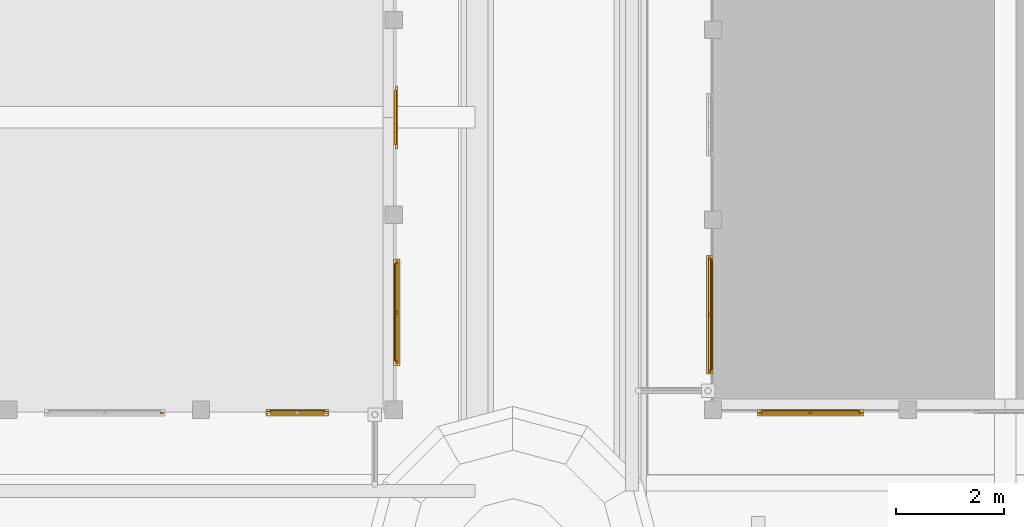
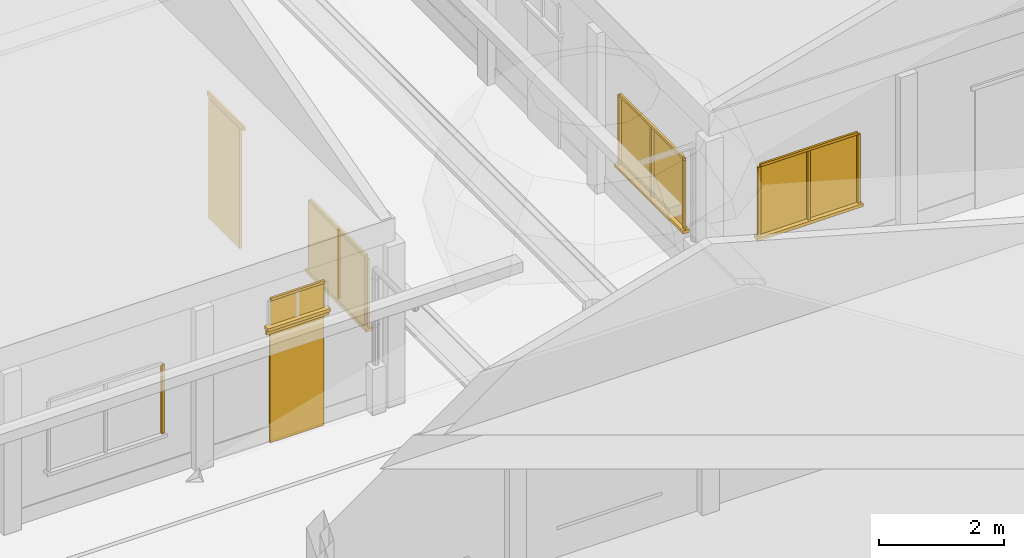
# One storey, part 64 of 177: 22 windows, 4 doors.
"""IFC4 building model written with IfcOpenShell, lengths in metres."""

import ifcopenshell
import ifcopenshell.guid

model = None  # the IFC model being written
_history = None  # IfcOwnerHistory: only IFC2X3 demands one
_inside = {}  # id of a spatial element -> (the spatial element, [elements in it])
_under = {}  # id of a project, library or spatial element -> (it, [spatial elements below it])
_declared = {}  # id of a project -> (the project, [libraries it declares])
_typed = {}  # id of a type object -> (the type object, [elements of that type])
_made_of = {}  # id of a material, layer set ... -> (it, [elements and type objects made of it])


def new_model(schema):
    """Start an empty IFC model of exactly this schema.

    Asked for "IFC4X3", IfcOpenShell would pick the latest addendum, in which some entities
    have other attributes; the version numbers below select the first issue.
    IFC2X3 requires an IfcOwnerHistory on every rooted entity: one is made here for all.
    """
    global model, _history
    if schema == "IFC4X3":
        model = ifcopenshell.file(schema_version=(4, 3, 0, 0))
    else:
        model = ifcopenshell.file(schema=schema)
    _inside.clear()
    _under.clear()
    _declared.clear()
    _typed.clear()
    _made_of.clear()
    _history = None
    if model.schema == "IFC2X3":
        org = make("IfcOrganization", Name="unknown")
        user = make(
            "IfcPersonAndOrganization",
            ThePerson=make("IfcPerson", FamilyName="unknown"),
            TheOrganization=org,
        )
        app = make(
            "IfcApplication",
            ApplicationDeveloper=org,
            Version="unknown",
            ApplicationFullName="unknown",
            ApplicationIdentifier="unknown",
        )
        _history = make(
            "IfcOwnerHistory",
            OwningUser=user,
            OwningApplication=app,
            ChangeAction="ADDED",
            CreationDate=0,
        )
    return model


def make(cls, **values):
    """One entity of the class cls with the attributes given. An attribute that is None is left unset."""
    return model.create_entity(
        cls, **{name: value for name, value in values.items() if value is not None}
    )


def rooted(cls, **values):
    """An entity with a GlobalId (a new one), such as an element, a storey or a relation."""
    return make(cls, GlobalId=ifcopenshell.guid.new(), OwnerHistory=_history, **values)


def si_unit(unit_type, name, prefix=None):
    """IfcSIUnit, for example si_unit("LENGTHUNIT", "METRE", prefix="MILLI")."""
    return make("IfcSIUnit", UnitType=unit_type, Prefix=prefix, Name=name)


def assignment(units):
    """IfcUnitAssignment: the units of a project."""
    return None if units is None else make("IfcUnitAssignment", Units=units)


def point(xyz):
    """IfcCartesianPoint."""
    return None if xyz is None else make("IfcCartesianPoint", Coordinates=xyz)


def direction(xyz):
    """IfcDirection."""
    return None if xyz is None else make("IfcDirection", DirectionRatios=xyz)


def frame(location, z_axis=None, x_axis=None):
    """IfcAxis2Placement3D, a coordinate frame: its origin and axes. An axis left out is left unset."""
    return make(
        "IfcAxis2Placement3D",
        Location=point(location),
        Axis=direction(z_axis),
        RefDirection=direction(x_axis),
    )


def origin():
    """The frame at (0, 0, 0) with its axes left unset."""
    return frame((0.0, 0.0, 0.0))


def origin_with_axes():
    """The frame at (0, 0, 0) with the z axis (0, 0, 1) and the x axis (1, 0, 0) written out."""
    return frame((0.0, 0.0, 0.0), z_axis=(0.0, 0.0, 1.0), x_axis=(1.0, 0.0, 0.0))


def place(relative_to, where):
    """IfcLocalPlacement: puts the frame where relative to a parent placement (None: the world)."""
    return make(
        "IfcLocalPlacement", PlacementRelTo=relative_to, RelativePlacement=where
    )


def context(
    kind, dimensions, precision=None, world=None, true_north=None, identifier=None
):
    """IfcGeometricRepresentationContext, for example the 3D "Model" context."""
    return make(
        "IfcGeometricRepresentationContext",
        ContextIdentifier=identifier,
        ContextType=kind,
        CoordinateSpaceDimension=dimensions,
        Precision=precision,
        WorldCoordinateSystem=world,
        TrueNorth=true_north,
    )


def subcontext(parent, identifier, kind, view, scale=None):
    """IfcGeometricRepresentationSubContext, for example "Body" below "Model"."""
    return make(
        "IfcGeometricRepresentationSubContext",
        ContextIdentifier=identifier,
        ContextType=kind,
        ParentContext=parent,
        TargetScale=scale,
        TargetView=view,
    )


def project(units=None, contexts=None):
    """IfcProject with its units and contexts."""
    return rooted(
        "IfcProject",
        Name="project",
        RepresentationContexts=contexts,
        UnitsInContext=assignment(units),
    )


def spatial(cls, under=None, at=None, **own):
    """A site, building, storey or space (cls), placed at a placement, below another one or the project."""
    s = rooted(cls, ObjectPlacement=at, **own)
    if under is not None:
        _under.setdefault(under.id(), (under, []))[1].append(s)
    return s


def point_list(points):
    """IfcCartesianPointList2D or 3D."""
    cls = (
        "IfcCartesianPointList2D" if len(points[0]) == 2 else "IfcCartesianPointList3D"
    )
    return make(cls, CoordList=points)


def triangles(points, corners, closed=None, point_numbers=None):
    """IfcTriangulatedFaceSet: each triangle names its three corners, points numbered from 1."""
    return make(
        "IfcTriangulatedFaceSet",
        Coordinates=point_list(points),
        Closed=closed,
        CoordIndex=corners,
        PnIndex=point_numbers,
    )


def shape(context_of_items, identifier, shape_type, items):
    """IfcShapeRepresentation: the items that make up one representation, for example the "Body"."""
    return make(
        "IfcShapeRepresentation",
        ContextOfItems=context_of_items,
        RepresentationIdentifier=identifier,
        RepresentationType=shape_type,
        Items=items,
    )


def made_of(thing, what):
    """Note that an element or type object is made of a material, layer set ...; save() writes the relation."""
    if what is not None:
        _made_of.setdefault(what.id(), (what, []))[1].append(thing)
    return thing


def element(
    cls,
    number,
    at=None,
    inside=None,
    cuts=None,
    type_object=None,
    material=None,
    context=None,
    identifier="Body",
    shape_type=None,
    held_by="IfcProductDefinitionShape",
    body=None,
    shapes=None,
    **own,
):
    """One element of the class cls, such as IfcWall. Its Tag is "e" and its number.

    at: its placement. inside: the storey or other place that contains it. cuts: it is an
    opening in that element (IfcRelVoidsElement). A single representation is given by context,
    identifier, shape_type and body (its items); several are given by shapes. held_by: the class
    of the entity that holds the representations. save() writes the other relations.
    """
    e = rooted(cls, Tag="e%d" % number, ObjectPlacement=at, **own)
    if body is not None:
        shapes = [shape(context, identifier, shape_type, body)]
    if shapes is not None:
        e.Representation = make(held_by, Representations=shapes)
    if inside is not None:
        _inside.setdefault(inside.id(), (inside, []))[1].append(e)
    if cuts is not None:
        rooted(
            "IfcRelVoidsElement", RelatingBuildingElement=cuts, RelatedOpeningElement=e
        )
    if type_object is not None:
        _typed.setdefault(type_object.id(), (type_object, []))[1].append(e)
    return made_of(e, material)


def aggregate(whole, parts):
    """IfcRelAggregates: a whole, such as a stair, and the parts it consists of."""
    return rooted("IfcRelAggregates", RelatingObject=whole, RelatedObjects=parts)


def save(model, path):
    """Write the relations noted so far, then the file.

    IfcRelAggregates (storeys below a building ...), IfcRelContainedInSpatialStructure (elements
    in a storey), IfcRelDefinesByType, IfcRelAssociatesMaterial and IfcRelDeclares: one each for
    every whole, place, type object, material and project.
    """
    for whole, parts in _under.values():
        aggregate(whole, parts)
    for where, things in _inside.values():
        rooted(
            "IfcRelContainedInSpatialStructure",
            RelatedElements=things,
            RelatingStructure=where,
        )
    for kind, things in _typed.values():
        rooted("IfcRelDefinesByType", RelatedObjects=things, RelatingType=kind)
    for what, things in _made_of.values():
        rooted("IfcRelAssociatesMaterial", RelatedObjects=things, RelatingMaterial=what)
    for by, libraries in _declared.values():
        rooted("IfcRelDeclares", RelatingContext=by, RelatedDefinitions=libraries)
    model.write(path)


model = new_model("IFC4")

# Units and contexts
model_context = context("Model", 3, precision=1e-05, world=origin_with_axes())
body_context = subcontext(model_context, "Body", "Model", "MODEL_VIEW")
ifc_project = project(units=[si_unit("LENGTHUNIT", "METRE"), si_unit("AREAUNIT", "SQUARE_METRE"), si_unit("VOLUMEUNIT", "CUBIC_METRE"), si_unit("PLANEANGLEUNIT", "RADIAN")], contexts=[model_context])

# Site, building, storey
site_placement = place(None, origin_with_axes())
site = spatial("IfcSite", under=ifc_project, at=site_placement, Name="Predio Los Mangos - Morales, San Martín", CompositionType="ELEMENT")
building_placement = place(site_placement, origin())
building = spatial("IfcBuilding", under=site, at=building_placement, Name="Hogar de Refugio Temporal", CompositionType="ELEMENT")
storey_placement = place(building_placement, origin())
storey = spatial("IfcBuildingStorey", under=building, at=storey_placement, Name="NIVEL 1 (NPT +0.00)", CompositionType="ELEMENT", Elevation=0.0)

# Window
window_1_placement = place(storey_placement, origin())
element("IfcWindow", 1, at=window_1_placement, inside=storey, Name="E-06_v3_m", ObjectType="Ventana", PredefinedType="WINDOW", context=body_context, shape_type="Tessellation", body=[
    triangles([(45.4924, 92.62, 1.05), (45.5424, 92.62, 1.05), (45.5424, 92.66, 1.05), (45.4924, 92.66, 1.05), (45.4924, 92.62, 2.4), (45.5424, 92.62, 2.4), (45.5424, 92.66, 2.4), (45.4924, 92.66, 2.4)], [[1, 4, 3], [1, 3, 2], [5, 6, 7], [5, 7, 8], [1, 2, 6], [1, 6, 5], [2, 3, 7], [2, 7, 6], [3, 4, 8], [3, 8, 7], [4, 1, 5], [4, 5, 8]]),
])

# Doors
door_1_placement = place(storey_placement, origin())
element("IfcDoor", 2, at=door_1_placement, inside=storey, Name="E-06_p4", ObjectType="Puerta", PredefinedType="DOOR", context=body_context, shape_type="Tessellation", body=[
    triangles([(47.52, 92.65, 0.15), (48.52, 92.65, 0.15), (48.52, 92.69, 0.15), (47.52, 92.69, 0.15), (47.52, 92.65, 2.3), (48.52, 92.65, 2.3), (48.52, 92.69, 2.3), (47.52, 92.69, 2.3)], [[1, 4, 3], [1, 3, 2], [5, 6, 7], [5, 7, 8], [1, 2, 6], [1, 6, 5], [2, 3, 7], [2, 7, 6], [3, 4, 8], [3, 8, 7], [4, 1, 5], [4, 5, 8]]),
])
door_2_placement = place(storey_placement, origin())
element("IfcDoor", 3, at=door_2_placement, inside=storey, Name="E-06_p4_marco", ObjectType="Puerta", PredefinedType="DOOR", context=body_context, shape_type="Tessellation", body=[
    triangles([(47.44, 92.63, 2.3), (48.6, 92.63, 2.3), (48.6, 92.67, 2.3), (47.44, 92.67, 2.3), (47.44, 92.63, 2.38), (48.6, 92.63, 2.38), (48.6, 92.67, 2.38), (47.44, 92.67, 2.38)], [[1, 4, 3], [1, 3, 2], [5, 6, 7], [5, 7, 8], [1, 2, 6], [1, 6, 5], [2, 3, 7], [2, 7, 6], [3, 4, 8], [3, 8, 7], [4, 1, 5], [4, 5, 8]]),
])

# Windows
window_2_placement = place(storey_placement, origin())
element("IfcWindow", 4, at=window_2_placement, inside=storey, Name="E-06_vt4_vid", ObjectType="Ventana", PredefinedType="WINDOW", context=body_context, shape_type="Tessellation", body=[
    triangles([(47.52, 92.66, 2.45), (48.52, 92.66, 2.45), (48.52, 92.68, 2.45), (47.52, 92.68, 2.45), (47.52, 92.66, 2.95), (48.52, 92.66, 2.95), (48.52, 92.68, 2.95), (47.52, 92.68, 2.95)], [[1, 4, 3], [1, 3, 2], [5, 6, 7], [5, 7, 8], [1, 2, 6], [1, 6, 5], [2, 3, 7], [2, 7, 6], [3, 4, 8], [3, 8, 7], [4, 1, 5], [4, 5, 8]]),
])
window_3_placement = place(storey_placement, origin())
element("IfcWindow", 5, at=window_3_placement, inside=storey, Name="E-06_vt4_m", ObjectType="Ventana", PredefinedType="WINDOW", context=body_context, shape_type="Tessellation", body=[
    triangles([(47.52, 92.62, 2.95), (48.52, 92.62, 2.95), (48.52, 92.66, 2.95), (47.52, 92.66, 2.95), (47.52, 92.62, 3.0), (48.52, 92.62, 3.0), (48.52, 92.66, 3.0), (47.52, 92.66, 3.0)], [[1, 4, 3], [1, 3, 2], [5, 6, 7], [5, 7, 8], [1, 2, 6], [1, 6, 5], [2, 3, 7], [2, 7, 6], [3, 4, 8], [3, 8, 7], [4, 1, 5], [4, 5, 8]]),
])
window_4_placement = place(storey_placement, origin())
element("IfcWindow", 6, at=window_4_placement, inside=storey, Name="E-06_vt4_alf", ObjectType="Ventana", PredefinedType="WINDOW", context=body_context, shape_type="Tessellation", body=[
    triangles([(47.44, 92.7, 2.39), (48.6, 92.7, 2.39), (48.6, 92.58, 2.39), (47.44, 92.58, 2.39), (47.44, 92.7, 2.45), (48.6, 92.7, 2.45), (48.6, 92.58, 2.45), (47.44, 92.58, 2.45)], [[1, 4, 3], [1, 3, 2], [5, 6, 7], [5, 7, 8], [1, 2, 6], [1, 6, 5], [2, 3, 7], [2, 7, 6], [3, 4, 8], [3, 8, 7], [4, 1, 5], [4, 5, 8]]),
])
window_5_placement = place(storey_placement, origin())
element("IfcWindow", 7, at=window_5_placement, inside=storey, Name="E-06_vg0_vid", ObjectType="Ventana", PredefinedType="WINDOW", context=body_context, shape_type="Tessellation", body=[
    triangles([(49.82, 93.6, 1.05), (49.84, 93.6, 1.05), (49.84, 95.4, 1.05), (49.82, 95.4, 1.05), (49.82, 93.6, 2.4), (49.84, 93.6, 2.4), (49.84, 95.4, 2.4), (49.82, 95.4, 2.4)], [[1, 4, 3], [1, 3, 2], [5, 6, 7], [5, 7, 8], [1, 2, 6], [1, 6, 5], [2, 3, 7], [2, 7, 6], [3, 4, 8], [3, 8, 7], [4, 1, 5], [4, 5, 8]]),
])
window_6_placement = place(storey_placement, origin())
element("IfcWindow", 8, at=window_6_placement, inside=storey, Name="E-06_vg0_m", ObjectType="Ventana", PredefinedType="WINDOW", context=body_context, shape_type="Tessellation", body=[
    triangles([(49.84, 93.55, 1.05), (49.88, 93.55, 1.05), (49.88, 93.6, 1.05), (49.84, 93.6, 1.05), (49.84, 93.55, 2.4), (49.88, 93.55, 2.4), (49.88, 93.6, 2.4), (49.84, 93.6, 2.4)], [[1, 4, 3], [1, 3, 2], [5, 6, 7], [5, 7, 8], [1, 2, 6], [1, 6, 5], [2, 3, 7], [2, 7, 6], [3, 4, 8], [3, 8, 7], [4, 1, 5], [4, 5, 8]]),
])
window_7_placement = place(storey_placement, origin())
element("IfcWindow", 9, at=window_7_placement, inside=storey, Name="E-06_vg0_m", ObjectType="Ventana", PredefinedType="WINDOW", context=body_context, shape_type="Tessellation", body=[
    triangles([(49.84, 95.4, 1.05), (49.88, 95.4, 1.05), (49.88, 95.45, 1.05), (49.84, 95.45, 1.05), (49.84, 95.4, 2.4), (49.88, 95.4, 2.4), (49.88, 95.45, 2.4), (49.84, 95.45, 2.4)], [[1, 4, 3], [1, 3, 2], [5, 6, 7], [5, 7, 8], [1, 2, 6], [1, 6, 5], [2, 3, 7], [2, 7, 6], [3, 4, 8], [3, 8, 7], [4, 1, 5], [4, 5, 8]]),
])
window_8_placement = place(storey_placement, origin())
element("IfcWindow", 10, at=window_8_placement, inside=storey, Name="E-06_vg0_m", ObjectType="Ventana", PredefinedType="WINDOW", context=body_context, shape_type="Tessellation", body=[
    triangles([(49.84, 93.6, 2.4), (49.88, 93.6, 2.4), (49.88, 95.4, 2.4), (49.84, 95.4, 2.4), (49.84, 93.6, 2.45), (49.88, 93.6, 2.45), (49.88, 95.4, 2.45), (49.84, 95.4, 2.45)], [[1, 4, 3], [1, 3, 2], [5, 6, 7], [5, 7, 8], [1, 2, 6], [1, 6, 5], [2, 3, 7], [2, 7, 6], [3, 4, 8], [3, 8, 7], [4, 1, 5], [4, 5, 8]]),
])
window_9_placement = place(storey_placement, origin())
element("IfcWindow", 11, at=window_9_placement, inside=storey, Name="E-06_vg0_m", ObjectType="Ventana", PredefinedType="WINDOW", context=body_context, shape_type="Tessellation", body=[
    triangles([(49.84, 94.475, 1.05), (49.88, 94.475, 1.05), (49.88, 94.525, 1.05), (49.84, 94.525, 1.05), (49.84, 94.475, 2.4), (49.88, 94.475, 2.4), (49.88, 94.525, 2.4), (49.84, 94.525, 2.4)], [[1, 4, 3], [1, 3, 2], [5, 6, 7], [5, 7, 8], [1, 2, 6], [1, 6, 5], [2, 3, 7], [2, 7, 6], [3, 4, 8], [3, 8, 7], [4, 1, 5], [4, 5, 8]]),
])
window_10_placement = place(storey_placement, origin())
element("IfcWindow", 12, at=window_10_placement, inside=storey, Name="E-06_vg0_alf", ObjectType="Ventana", PredefinedType="WINDOW", context=body_context, shape_type="Tessellation", body=[
    triangles([(49.8, 93.52, 0.99), (49.92, 93.52, 0.99), (49.92, 95.48, 0.99), (49.8, 95.48, 0.99), (49.8, 93.52, 1.05), (49.92, 93.52, 1.05), (49.92, 95.48, 1.05), (49.8, 95.48, 1.05)], [[1, 4, 3], [1, 3, 2], [5, 6, 7], [5, 7, 8], [1, 2, 6], [1, 6, 5], [2, 3, 7], [2, 7, 6], [3, 4, 8], [3, 8, 7], [4, 1, 5], [4, 5, 8]]),
])

# Doors
door_3_placement = place(storey_placement, origin())
element("IfcDoor", 13, at=door_3_placement, inside=storey, Name="E-06_pp", ObjectType="Puerta", PredefinedType="DOOR", context=body_context, shape_type="Tessellation", body=[
    triangles([(49.81, 97.6, 0.15), (49.85, 97.6, 0.15), (49.85, 98.6, 0.15), (49.81, 98.6, 0.15), (49.81, 97.6, 2.5), (49.85, 97.6, 2.5), (49.85, 98.6, 2.5), (49.81, 98.6, 2.5)], [[1, 4, 3], [1, 3, 2], [5, 6, 7], [5, 7, 8], [1, 2, 6], [1, 6, 5], [2, 3, 7], [2, 7, 6], [3, 4, 8], [3, 8, 7], [4, 1, 5], [4, 5, 8]]),
])
door_4_placement = place(storey_placement, origin())
element("IfcDoor", 14, at=door_4_placement, inside=storey, Name="E-06_pp_marco", ObjectType="Puerta", PredefinedType="DOOR", context=body_context, shape_type="Tessellation", body=[
    triangles([(49.83, 97.52, 2.5), (49.87, 97.52, 2.5), (49.87, 98.68, 2.5), (49.83, 98.68, 2.5), (49.83, 97.52, 2.58), (49.87, 97.52, 2.58), (49.87, 98.68, 2.58), (49.83, 98.68, 2.58)], [[1, 4, 3], [1, 3, 2], [5, 6, 7], [5, 7, 8], [1, 2, 6], [1, 6, 5], [2, 3, 7], [2, 7, 6], [3, 4, 8], [3, 8, 7], [4, 1, 5], [4, 5, 8]]),
])

# Windows
window_11_placement = place(storey_placement, origin())
element("IfcWindow", 15, at=window_11_placement, inside=storey, Name="E-07_vg0_vid", ObjectType="Ventana", PredefinedType="WINDOW", context=body_context, shape_type="Tessellation", body=[
    triangles([(56.6, 92.66, 1.05), (58.4, 92.66, 1.05), (58.4, 92.68, 1.05), (56.6, 92.68, 1.05), (56.6, 92.66, 2.4), (58.4, 92.66, 2.4), (58.4, 92.68, 2.4), (56.6, 92.68, 2.4)], [[1, 4, 3], [1, 3, 2], [5, 6, 7], [5, 7, 8], [1, 2, 6], [1, 6, 5], [2, 3, 7], [2, 7, 6], [3, 4, 8], [3, 8, 7], [4, 1, 5], [4, 5, 8]]),
])
window_12_placement = place(storey_placement, origin())
element("IfcWindow", 16, at=window_12_placement, inside=storey, Name="E-07_vg0_m", ObjectType="Ventana", PredefinedType="WINDOW", context=body_context, shape_type="Tessellation", body=[
    triangles([(56.55, 92.62, 1.05), (56.6, 92.62, 1.05), (56.6, 92.66, 1.05), (56.55, 92.66, 1.05), (56.55, 92.62, 2.4), (56.6, 92.62, 2.4), (56.6, 92.66, 2.4), (56.55, 92.66, 2.4)], [[1, 4, 3], [1, 3, 2], [5, 6, 7], [5, 7, 8], [1, 2, 6], [1, 6, 5], [2, 3, 7], [2, 7, 6], [3, 4, 8], [3, 8, 7], [4, 1, 5], [4, 5, 8]]),
])
window_13_placement = place(storey_placement, origin())
element("IfcWindow", 17, at=window_13_placement, inside=storey, Name="E-07_vg0_m", ObjectType="Ventana", PredefinedType="WINDOW", context=body_context, shape_type="Tessellation", body=[
    triangles([(58.4, 92.62, 1.05), (58.45, 92.62, 1.05), (58.45, 92.66, 1.05), (58.4, 92.66, 1.05), (58.4, 92.62, 2.4), (58.45, 92.62, 2.4), (58.45, 92.66, 2.4), (58.4, 92.66, 2.4)], [[1, 4, 3], [1, 3, 2], [5, 6, 7], [5, 7, 8], [1, 2, 6], [1, 6, 5], [2, 3, 7], [2, 7, 6], [3, 4, 8], [3, 8, 7], [4, 1, 5], [4, 5, 8]]),
])
window_14_placement = place(storey_placement, origin())
element("IfcWindow", 18, at=window_14_placement, inside=storey, Name="E-07_vg0_m", ObjectType="Ventana", PredefinedType="WINDOW", context=body_context, shape_type="Tessellation", body=[
    triangles([(56.6, 92.62, 2.4), (58.4, 92.62, 2.4), (58.4, 92.66, 2.4), (56.6, 92.66, 2.4), (56.6, 92.62, 2.45), (58.4, 92.62, 2.45), (58.4, 92.66, 2.45), (56.6, 92.66, 2.45)], [[1, 4, 3], [1, 3, 2], [5, 6, 7], [5, 7, 8], [1, 2, 6], [1, 6, 5], [2, 3, 7], [2, 7, 6], [3, 4, 8], [3, 8, 7], [4, 1, 5], [4, 5, 8]]),
])
window_15_placement = place(storey_placement, origin())
element("IfcWindow", 19, at=window_15_placement, inside=storey, Name="E-07_vg0_m", ObjectType="Ventana", PredefinedType="WINDOW", context=body_context, shape_type="Tessellation", body=[
    triangles([(57.475, 92.62, 1.05), (57.525, 92.62, 1.05), (57.525, 92.66, 1.05), (57.475, 92.66, 1.05), (57.475, 92.62, 2.4), (57.525, 92.62, 2.4), (57.525, 92.66, 2.4), (57.475, 92.66, 2.4)], [[1, 4, 3], [1, 3, 2], [5, 6, 7], [5, 7, 8], [1, 2, 6], [1, 6, 5], [2, 3, 7], [2, 7, 6], [3, 4, 8], [3, 8, 7], [4, 1, 5], [4, 5, 8]]),
])
window_16_placement = place(storey_placement, origin())
element("IfcWindow", 20, at=window_16_placement, inside=storey, Name="E-07_vg0_alf", ObjectType="Ventana", PredefinedType="WINDOW", context=body_context, shape_type="Tessellation", body=[
    triangles([(56.52, 92.7, 0.99), (58.48, 92.7, 0.99), (58.48, 92.58, 0.99), (56.52, 92.58, 0.99), (56.52, 92.7, 1.05), (58.48, 92.7, 1.05), (58.48, 92.58, 1.05), (56.52, 92.58, 1.05)], [[1, 4, 3], [1, 3, 2], [5, 6, 7], [5, 7, 8], [1, 2, 6], [1, 6, 5], [2, 3, 7], [2, 7, 6], [3, 4, 8], [3, 8, 7], [4, 1, 5], [4, 5, 8]]),
])
window_17_placement = place(storey_placement, origin())
element("IfcWindow", 21, at=window_17_placement, inside=storey, Name="E-07_v0_vid", ObjectType="Ventana", PredefinedType="WINDOW", context=body_context, shape_type="Tessellation", body=[
    triangles([(55.66, 93.4371, 1.05), (55.68, 93.4371, 1.05), (55.68, 95.4729, 1.05), (55.66, 95.4729, 1.05), (55.66, 93.4371, 2.4), (55.68, 93.4371, 2.4), (55.68, 95.4729, 2.4), (55.66, 95.4729, 2.4)], [[1, 4, 3], [1, 3, 2], [5, 6, 7], [5, 7, 8], [1, 2, 6], [1, 6, 5], [2, 3, 7], [2, 7, 6], [3, 4, 8], [3, 8, 7], [4, 1, 5], [4, 5, 8]]),
])
window_18_placement = place(storey_placement, origin())
element("IfcWindow", 22, at=window_18_placement, inside=storey, Name="E-07_v0_m", ObjectType="Ventana", PredefinedType="WINDOW", context=body_context, shape_type="Tessellation", body=[
    triangles([(55.62, 93.3871, 1.05), (55.66, 93.3871, 1.05), (55.66, 93.4371, 1.05), (55.62, 93.4371, 1.05), (55.62, 93.3871, 2.4), (55.66, 93.3871, 2.4), (55.66, 93.4371, 2.4), (55.62, 93.4371, 2.4)], [[1, 4, 3], [1, 3, 2], [5, 6, 7], [5, 7, 8], [1, 2, 6], [1, 6, 5], [2, 3, 7], [2, 7, 6], [3, 4, 8], [3, 8, 7], [4, 1, 5], [4, 5, 8]]),
])
window_19_placement = place(storey_placement, origin())
element("IfcWindow", 23, at=window_19_placement, inside=storey, Name="E-07_v0_m", ObjectType="Ventana", PredefinedType="WINDOW", context=body_context, shape_type="Tessellation", body=[
    triangles([(55.62, 95.4729, 1.05), (55.66, 95.4729, 1.05), (55.66, 95.5229, 1.05), (55.62, 95.5229, 1.05), (55.62, 95.4729, 2.4), (55.66, 95.4729, 2.4), (55.66, 95.5229, 2.4), (55.62, 95.5229, 2.4)], [[1, 4, 3], [1, 3, 2], [5, 6, 7], [5, 7, 8], [1, 2, 6], [1, 6, 5], [2, 3, 7], [2, 7, 6], [3, 4, 8], [3, 8, 7], [4, 1, 5], [4, 5, 8]]),
])
window_20_placement = place(storey_placement, origin())
element("IfcWindow", 24, at=window_20_placement, inside=storey, Name="E-07_v0_m", ObjectType="Ventana", PredefinedType="WINDOW", context=body_context, shape_type="Tessellation", body=[
    triangles([(55.62, 93.4371, 2.4), (55.66, 93.4371, 2.4), (55.66, 95.4729, 2.4), (55.62, 95.4729, 2.4), (55.62, 93.4371, 2.45), (55.66, 93.4371, 2.45), (55.66, 95.4729, 2.45), (55.62, 95.4729, 2.45)], [[1, 4, 3], [1, 3, 2], [5, 6, 7], [5, 7, 8], [1, 2, 6], [1, 6, 5], [2, 3, 7], [2, 7, 6], [3, 4, 8], [3, 8, 7], [4, 1, 5], [4, 5, 8]]),
])
window_21_placement = place(storey_placement, origin())
element("IfcWindow", 25, at=window_21_placement, inside=storey, Name="E-07_v0_m", ObjectType="Ventana", PredefinedType="WINDOW", context=body_context, shape_type="Tessellation", body=[
    triangles([(55.62, 94.43, 1.05), (55.66, 94.43, 1.05), (55.66, 94.48, 1.05), (55.62, 94.48, 1.05), (55.62, 94.43, 2.4), (55.66, 94.43, 2.4), (55.66, 94.48, 2.4), (55.62, 94.48, 2.4)], [[1, 4, 3], [1, 3, 2], [5, 6, 7], [5, 7, 8], [1, 2, 6], [1, 6, 5], [2, 3, 7], [2, 7, 6], [3, 4, 8], [3, 8, 7], [4, 1, 5], [4, 5, 8]]),
])
window_22_placement = place(storey_placement, origin())
element("IfcWindow", 26, at=window_22_placement, inside=storey, Name="E-07_v0_alf", ObjectType="Ventana", PredefinedType="WINDOW", context=body_context, shape_type="Tessellation", body=[
    triangles([(55.7, 93.3571, 0.99), (55.58, 93.3571, 0.99), (55.58, 95.5529, 0.99), (55.7, 95.5529, 0.99), (55.7, 93.3571, 1.05), (55.58, 93.3571, 1.05), (55.58, 95.5529, 1.05), (55.7, 95.5529, 1.05)], [[1, 4, 3], [1, 3, 2], [5, 6, 7], [5, 7, 8], [1, 2, 6], [1, 6, 5], [2, 3, 7], [2, 7, 6], [3, 4, 8], [3, 8, 7], [4, 1, 5], [4, 5, 8]]),
])

save(model, "model.ifc")
